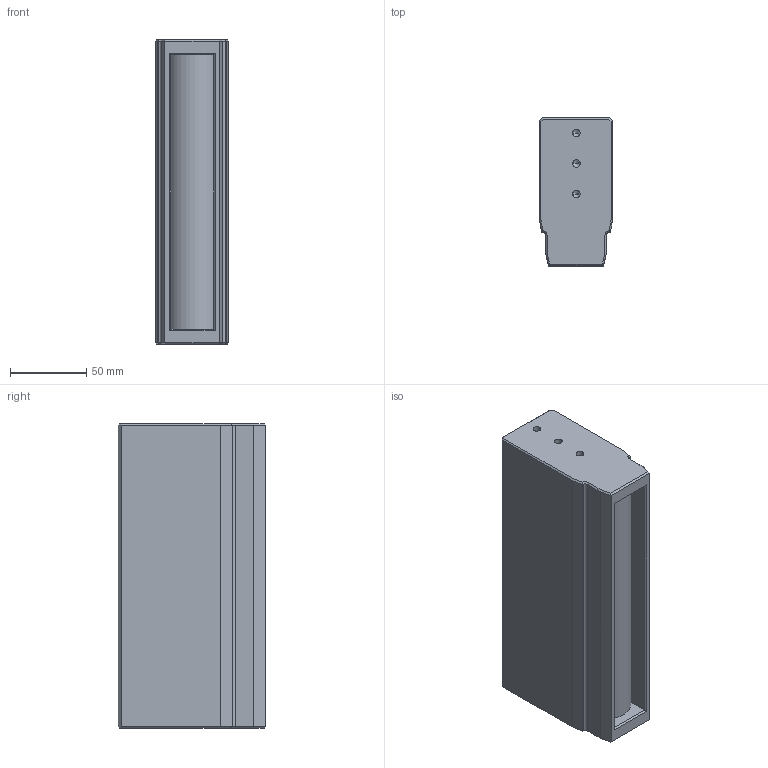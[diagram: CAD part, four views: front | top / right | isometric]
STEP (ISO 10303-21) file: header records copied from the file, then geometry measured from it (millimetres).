
FILE_DESCRIPTION (( 'STEP AP203' ), '1' );
FILE_NAME ('PPX-LS200-W.STEP', '2021-10-26T06:05:07', ( 'China' ), ( 'Home' ), 'SwSTEP 2.0', 'SolidWorks 2016', '' );
FILE_SCHEMA (( 'CONFIG_CONTROL_DESIGN' ));
Length unit declared in the file: millimetre
Products named in the file (5): PPX-LS80-W-A1.0諉諳假蚾啣; 瑤諾譫芛; 瑞圮ㄗ40ㄘ; PPX-LS200-W; PPX-LS200翋极
Assembly tree (5 placements, depth 2):
  PPX-LS200-W
    PPX-LS200翋极
    PPX-LS80-W-A1.0諉諳假蚾啣
    瑤諾譫芛
    瑞圮ㄗ40ㄘ  x2
Bounding box: 48 x 97 x 200 mm (x, y, z)
Volume: 529068.1 mm3; surface area: 167552.2 mm2
Topology: 5 solids, 6 shells, 626 faces, 1528 edges, 948 vertices
Faces by surface type: plane 242, cylinder 216, torus 92, bspline 54, cone 22
Entity records: 13653 total; most frequent: CARTESIAN_POINT 3165, DIRECTION 2143, ORIENTED_EDGE 2026, EDGE_CURVE 1013, AXIS2_PLACEMENT_3D 820, VERTEX_POINT 634, VECTOR 503, LINE 503
